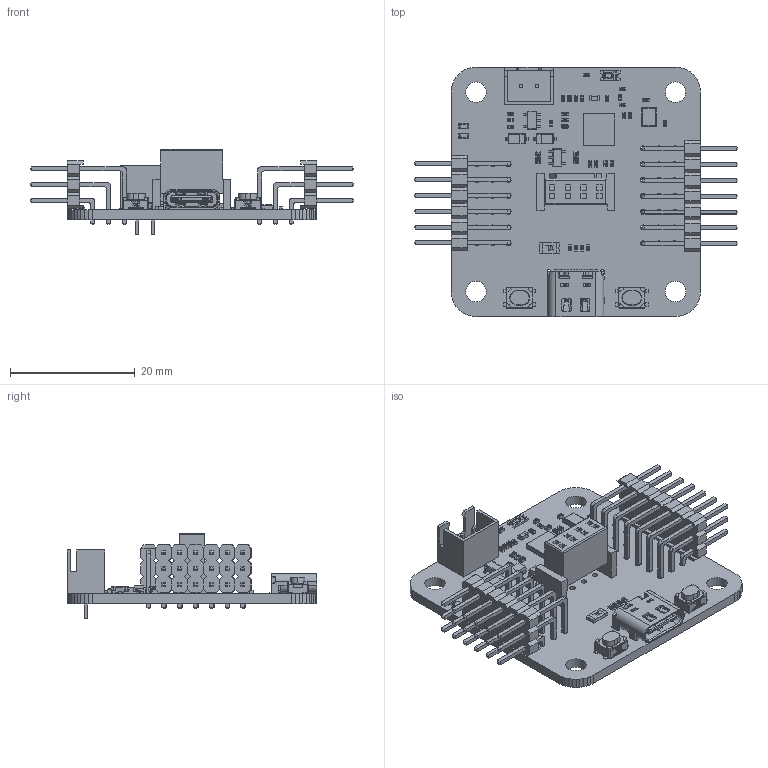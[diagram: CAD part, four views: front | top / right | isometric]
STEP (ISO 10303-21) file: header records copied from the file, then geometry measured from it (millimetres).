
FILE_DESCRIPTION(('Open CASCADE Model'),'2;1');
FILE_NAME('Open CASCADE Shape Model','2025-03-26T14:03:10',('Author'),( 'Open CASCADE'),'Open CASCADE STEP processor 6.5','Open CASCADE 6.5' ,'Unknown');
FILE_SCHEMA(('AUTOMOTIVE_DESIGN { 1 0 10303 214 1 1 1 1 }'));
Length unit declared in the file: millimetre
Products named in the file (70): PCB; Board; C13; User_Library-0402(1005M)_Cap; U2; sot23-5; D1; CircuitWorks-SOD123; D4; C14; C7; C6; P8; XH2.54-4P-BTBF; R11; 0402_R; R10; R9; D3; LED0603(R); U3; 1155125008; Extruded; R8; P1; User_Library-XH2_54_2PIN; L1; User_Library-cap_0603_lowprofile; C1; C3; User_Library-0603(1608M)_Cap; C4; C5; C2; C8; C9; C10; D2; LED0603(G); F1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
Assembly tree (111 placements, depth 4):
  PCB
    Board
    C13
      User_Library-0402(1005M)_Cap
    U2
      sot23-5
    D1
      CircuitWorks-SOD123
    D4
      CircuitWorks-SOD123
    C14
      User_Library-0402(1005M)_Cap
    C7
      User_Library-0402(1005M)_Cap
    C6
      User_Library-0402(1005M)_Cap
    P8
      XH2.54-4P-BTBF
    R11
      0402_R
    R10
      0402_R
    R9
      0402_R
    D3
      LED0603(R)
    U3
      1155125008
        Extruded
    R8
      0402_R
    P1
      User_Library-XH2_54_2PIN
    L1
      User_Library-cap_0603_lowprofile
    C1
      User_Library-0402(1005M)_Cap
    C3
      User_Library-0603(1608M)_Cap
    C4
      User_Library-0402(1005M)_Cap
    C5
      User_Library-0402(1005M)_Cap
    C2
      User_Library-0603(1608M)_Cap
    C8
      User_Library-0402(1005M)_Cap
    C9
      User_Library-0402(1005M)_Cap
    C10
      User_Library-0402(1005M)_Cap
    D2
      LED0603(G)
    F1
      User_Library-nona_SMD075F
    R1
      0402_R
    R2
      0402_R
    R3
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Bounding box: 51.97 x 40.06 x 13.65 mm (x, y, z)
Volume: 4027.1 mm3; surface area: 9036.5 mm2
Topology: 143 solids, 153 shells, 8441 faces, 22532 edges, 14542 vertices
Faces by surface type: plane 5796, cylinder 1490, bspline 1040, extrusion 55, cone 44, sphere 16
Full cylindrical faces by diameter (mm): 0.5 x4, 0.65 x2, 0.8 x41, 0.889 x4, 3.3 x4
Entity records: 331164 total; most frequent: CARTESIAN_POINT 107798, DIRECTION 37370, VECTOR 24381, LINE 24376, ORIENTED_EDGE 22518, PCURVE 22518, DEFINITIONAL_REPRESENTATION 22518, EDGE_CURVE 11259
